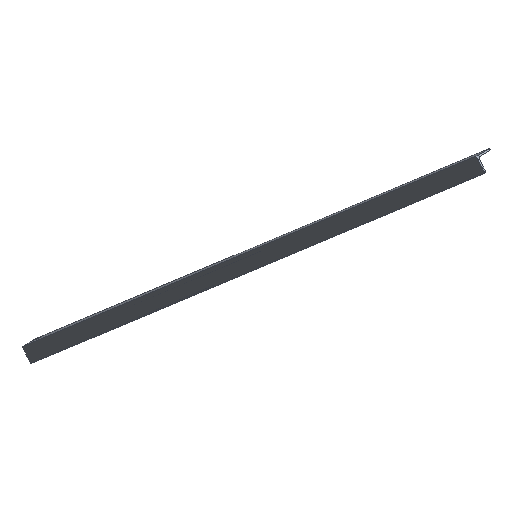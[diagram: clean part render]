
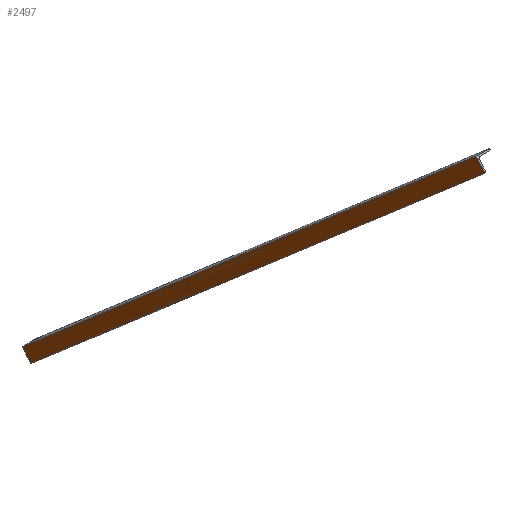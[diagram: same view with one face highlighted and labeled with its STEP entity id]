
A CAD part, isometric view. The second image highlights one B-rep face of the part: STEP entity #2497.
In plain terms, the highlighted planar face has unit normal (-1, 0, 0).
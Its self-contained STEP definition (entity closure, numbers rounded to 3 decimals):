
#94 = LINE ( 'NONE', #293, #893 ) ;
#293 = CARTESIAN_POINT ( 'NONE',  ( 5., -97.215, 2056.937 ) ) ;
#360 = CARTESIAN_POINT ( 'NONE',  ( 5., -1770.114, 3500.913 ) ) ;
#489 = VERTEX_POINT ( 'NONE', #2442 ) ;
#504 = DIRECTION ( 'NONE',  ( 0., -0.653, -0.757 ) ) ;
#551 = CARTESIAN_POINT ( 'NONE',  ( 5., -1770.114, 3500.913 ) ) ;
#560 = LINE ( 'NONE', #2267, #1884 ) ;
#562 = CARTESIAN_POINT ( 'NONE',  ( 5., -1802.785, 3463.063 ) ) ;
#692 = CARTESIAN_POINT ( 'NONE',  ( 5., -97.215, 2056.937 ) ) ;
#724 = DIRECTION ( 'NONE',  ( 0., 0., -1. ) ) ;
#769 = DIRECTION ( 'NONE',  ( 0., 0.757, -0.653 ) ) ;
#841 = ORIENTED_EDGE ( 'NONE', *, *, #1057, .F. ) ;
#893 = VECTOR ( 'NONE', #504, 1000. ) ;
#1051 = VERTEX_POINT ( 'NONE', #562 ) ;
#1057 = EDGE_CURVE ( 'NONE', #489, #1051, #1434, .T. ) ;
#1181 = DIRECTION ( 'NONE',  ( 0., 0.757, -0.653 ) ) ;
#1214 = DIRECTION ( 'NONE',  ( 0., -0.653, -0.757 ) ) ;
#1432 = CARTESIAN_POINT ( 'NONE',  ( 5., -1802.785, 3463.063 ) ) ;
#1434 = LINE ( 'NONE', #360, #2614 ) ;
#1457 = ORIENTED_EDGE ( 'NONE', *, *, #2731, .T. ) ;
#1818 = LINE ( 'NONE', #1432, #2069 ) ;
#1839 = PLANE ( 'NONE',  #1978 ) ;
#1884 = VECTOR ( 'NONE', #1181, 1000. ) ;
#1921 = ORIENTED_EDGE ( 'NONE', *, *, #2015, .T. ) ;
#1963 = EDGE_LOOP ( 'NONE', ( #1457, #2190, #841, #1921 ) ) ;
#1974 = VERTEX_POINT ( 'NONE', #692 ) ;
#1978 = AXIS2_PLACEMENT_3D ( 'NONE', #551, #2708, #724 ) ;
#2015 = EDGE_CURVE ( 'NONE', #489, #1974, #560, .T. ) ;
#2051 = EDGE_CURVE ( 'NONE', #1051, #2214, #1818, .T. ) ;
#2069 = VECTOR ( 'NONE', #769, 1000. ) ;
#2190 = ORIENTED_EDGE ( 'NONE', *, *, #2051, .F. ) ;
#2214 = VERTEX_POINT ( 'NONE', #2309 ) ;
#2267 = CARTESIAN_POINT ( 'NONE',  ( 5., -1770.114, 3500.913 ) ) ;
#2309 = CARTESIAN_POINT ( 'NONE',  ( 5., -129.886, 2019.087 ) ) ;
#2442 = CARTESIAN_POINT ( 'NONE',  ( 5., -1770.114, 3500.913 ) ) ;
#2497 = ADVANCED_FACE ( 'NONE', ( #2670 ), #1839, .F. ) ;
#2614 = VECTOR ( 'NONE', #1214, 1000. ) ;
#2670 = FACE_OUTER_BOUND ( 'NONE', #1963, .T. ) ;
#2708 = DIRECTION ( 'NONE',  ( 1., 0., 0. ) ) ;
#2731 = EDGE_CURVE ( 'NONE', #1974, #2214, #94, .T. ) ;
